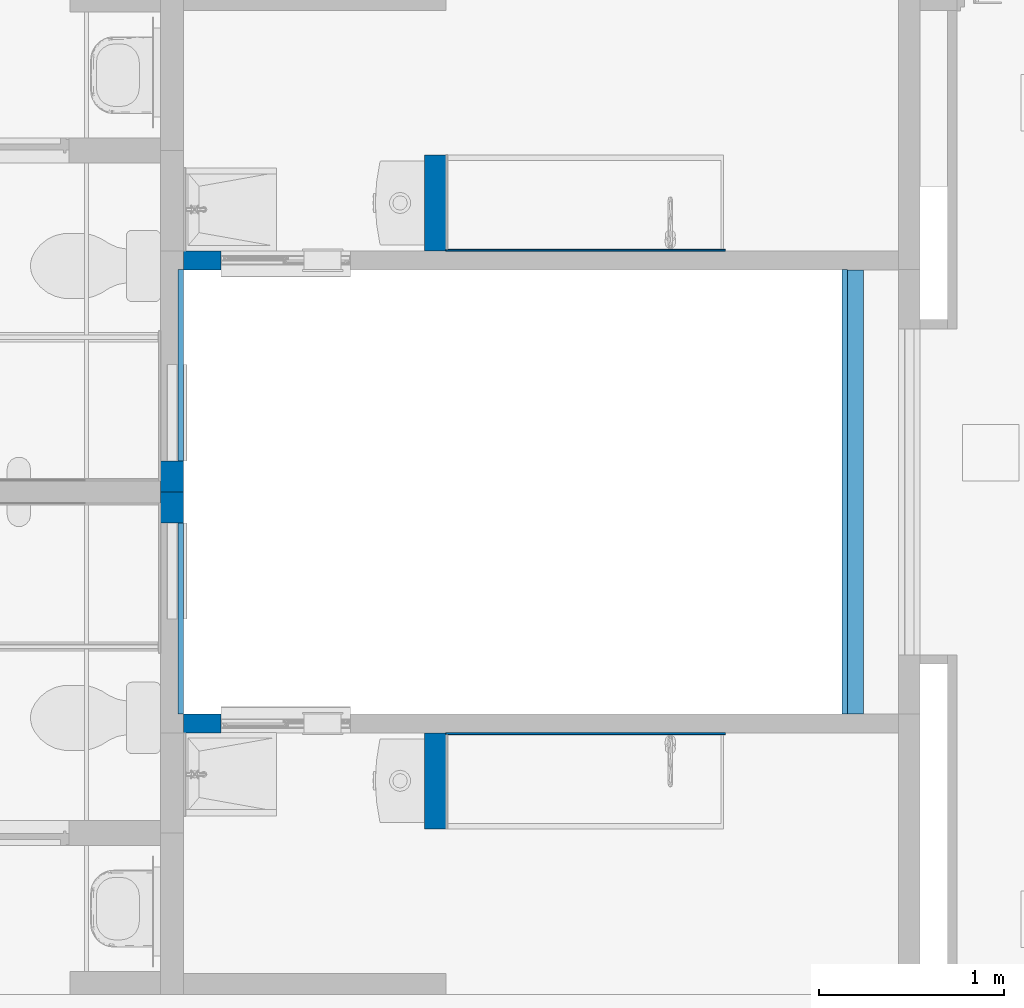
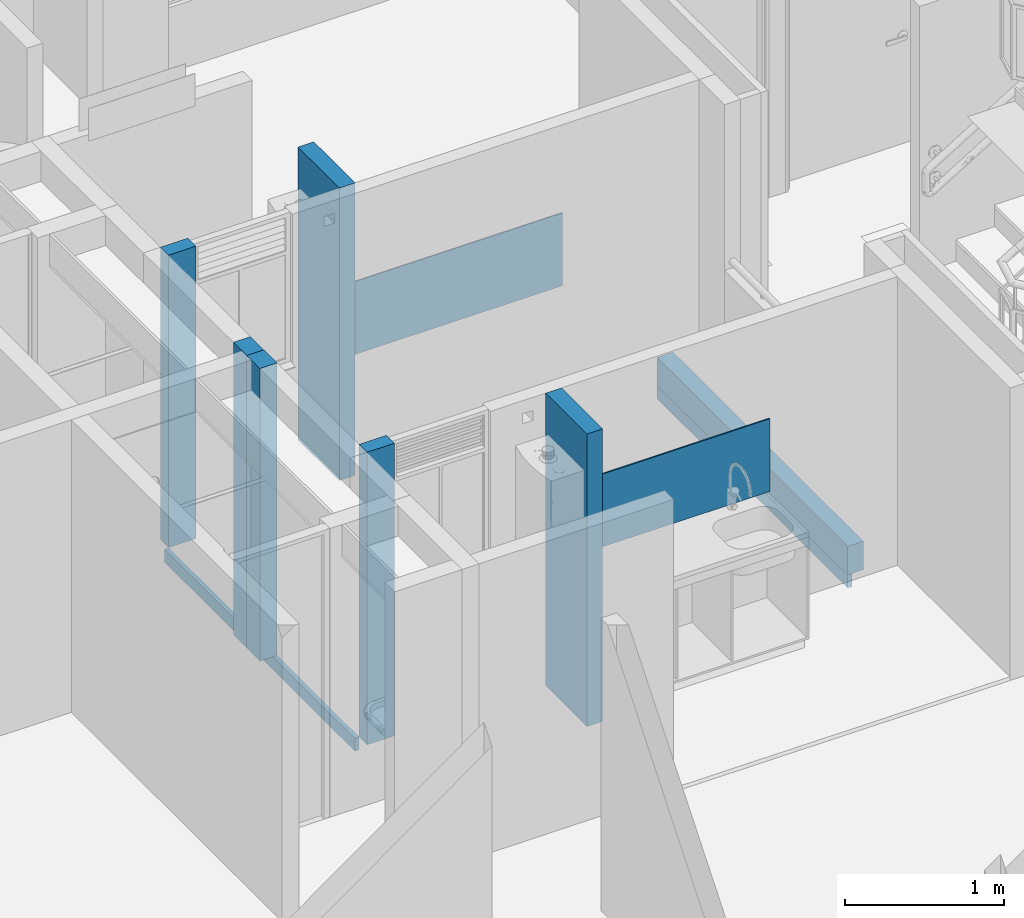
# One storey, part 8 of 51: 12 walls, 1 opening.
"""IFC4 building model written with IfcOpenShell, lengths in metres."""

from ifc_helpers import new_model, entity, si_unit, converted_unit, derived_unit, direction, frame, origin, place, context, subcontext, project, spatial, indexed_curve, outline, extrude, material, constituent, constituent_set, type_object, element, save


model = new_model("IFC4")

# Units and contexts
model_context = context("Model", 3, precision=1e-05, world=origin(), true_north=direction((6.123031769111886e-17, 1.0)))
body_context = subcontext(model_context, "Body", "Model", "MODEL_VIEW")
ifc_project = project(units=[si_unit("LENGTHUNIT", "METRE"), si_unit("AREAUNIT", "SQUARE_METRE"), si_unit("VOLUMEUNIT", "CUBIC_METRE"), converted_unit("PLANEANGLEUNIT", "DEGREE", entity("IfcRatioMeasure", 0.017453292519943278), si_unit("PLANEANGLEUNIT", "RADIAN"), dimensions=[0, 0, 0, 0, 0, 0, 0]), si_unit("MASSUNIT", "GRAM", prefix="KILO"), derived_unit("MASSDENSITYUNIT", [(si_unit("MASSUNIT", "GRAM", prefix="KILO"), 1), (si_unit("LENGTHUNIT", "METRE"), -3)]), derived_unit("IONCONCENTRATIONUNIT", [(si_unit("MASSUNIT", "GRAM", prefix="KILO"), 1), (si_unit("LENGTHUNIT", "METRE"), -3)]), derived_unit("MOMENTOFINERTIAUNIT", [(si_unit("LENGTHUNIT", "METRE"), 4)]), si_unit("TIMEUNIT", "SECOND"), si_unit("FREQUENCYUNIT", "HERTZ"), si_unit("THERMODYNAMICTEMPERATUREUNIT", "DEGREE_CELSIUS"), derived_unit("THERMALTRANSMITTANCEUNIT", [(si_unit("MASSUNIT", "GRAM", prefix="KILO"), 1), (si_unit("THERMODYNAMICTEMPERATUREUNIT", "KELVIN"), -1), (si_unit("TIMEUNIT", "SECOND"), -3)]), derived_unit("THERMALCONDUCTANCEUNIT", [(si_unit("MASSUNIT", "GRAM", prefix="KILO"), 1), (si_unit("THERMODYNAMICTEMPERATUREUNIT", "KELVIN"), -1), (si_unit("TIMEUNIT", "SECOND"), -3), (si_unit("LENGTHUNIT", "METRE"), 1)]), derived_unit("VOLUMETRICFLOWRATEUNIT", [(si_unit("LENGTHUNIT", "METRE"), 3), (si_unit("TIMEUNIT", "SECOND"), -1)]), derived_unit("MASSFLOWRATEUNIT", [(si_unit("MASSUNIT", "GRAM", prefix="KILO"), 1), (si_unit("TIMEUNIT", "SECOND"), -1)]), derived_unit("ROTATIONALFREQUENCYUNIT", [(si_unit("TIMEUNIT", "SECOND"), -1)]), si_unit("ELECTRICCURRENTUNIT", "AMPERE"), si_unit("ELECTRICVOLTAGEUNIT", "VOLT"), si_unit("POWERUNIT", "WATT"), si_unit("FORCEUNIT", "NEWTON", prefix="KILO"), si_unit("ILLUMINANCEUNIT", "LUX"), si_unit("LUMINOUSFLUXUNIT", "LUMEN"), si_unit("LUMINOUSINTENSITYUNIT", "CANDELA"), derived_unit("USERDEFINED", [(si_unit("MASSUNIT", "GRAM", prefix="KILO"), -1), (si_unit("LENGTHUNIT", "METRE"), -2), (si_unit("TIMEUNIT", "SECOND"), 3), (si_unit("LUMINOUSFLUXUNIT", "LUMEN"), 1)]), derived_unit("USERDEFINED", [(si_unit("MASSUNIT", "GRAM", prefix="KILO"), 1), (si_unit("TIMEUNIT", "SECOND"), -3), (si_unit("LENGTHUNIT", "METRE"), 3), (si_unit("ELECTRICCURRENTUNIT", "AMPERE"), -2)]), derived_unit("SOUNDPOWERUNIT", [(si_unit("MASSUNIT", "GRAM", prefix="KILO"), 1), (si_unit("TIMEUNIT", "SECOND"), -3), (si_unit("LENGTHUNIT", "METRE"), 2)]), derived_unit("SOUNDPRESSUREUNIT", [(si_unit("MASSUNIT", "GRAM", prefix="KILO"), 1), (si_unit("LENGTHUNIT", "METRE"), -1), (si_unit("TIMEUNIT", "SECOND"), -2)]), derived_unit("LINEARVELOCITYUNIT", [(si_unit("LENGTHUNIT", "METRE"), 1), (si_unit("TIMEUNIT", "SECOND"), -1)]), si_unit("PRESSUREUNIT", "PASCAL"), derived_unit("USERDEFINED", [(si_unit("MASSUNIT", "GRAM", prefix="KILO"), 1), (si_unit("LENGTHUNIT", "METRE"), -2), (si_unit("TIMEUNIT", "SECOND"), -2)]), derived_unit("LINEARFORCEUNIT", [(si_unit("MASSUNIT", "GRAM", prefix="KILO"), 1), (si_unit("TIMEUNIT", "SECOND"), -2)]), derived_unit("PLANARFORCEUNIT", [(si_unit("MASSUNIT", "GRAM", prefix="KILO"), 1), (si_unit("LENGTHUNIT", "METRE"), -1), (si_unit("TIMEUNIT", "SECOND"), -2)]), derived_unit("SPECIFICHEATCAPACITYUNIT", [(si_unit("THERMODYNAMICTEMPERATUREUNIT", "KELVIN"), -1), (si_unit("LENGTHUNIT", "METRE"), 2), (si_unit("TIMEUNIT", "SECOND"), -2)]), derived_unit("HEATINGVALUEUNIT", [(si_unit("LENGTHUNIT", "METRE"), 2), (si_unit("TIMEUNIT", "SECOND"), -2)]), derived_unit("VAPORPERMEABILITYUNIT", [(si_unit("LENGTHUNIT", "METRE"), -1), (si_unit("TIMEUNIT", "SECOND"), 1)]), derived_unit("DYNAMICVISCOSITYUNIT", [(si_unit("MASSUNIT", "GRAM", prefix="KILO"), 1), (si_unit("TIMEUNIT", "SECOND"), -1), (si_unit("LENGTHUNIT", "METRE"), -1)]), derived_unit("THERMALEXPANSIONCOEFFICIENTUNIT", [(si_unit("THERMODYNAMICTEMPERATUREUNIT", "KELVIN"), -1)]), derived_unit("MODULUSOFELASTICITYUNIT", [(si_unit("MASSUNIT", "GRAM", prefix="KILO"), 1), (si_unit("LENGTHUNIT", "METRE"), -1), (si_unit("TIMEUNIT", "SECOND"), -2)]), derived_unit("ISOTHERMALMOISTURECAPACITYUNIT", [(si_unit("LENGTHUNIT", "METRE"), 3), (si_unit("MASSUNIT", "GRAM", prefix="KILO"), -1)]), derived_unit("MOISTUREDIFFUSIVITYUNIT", [(si_unit("TIMEUNIT", "SECOND"), -1), (si_unit("LENGTHUNIT", "METRE"), 2)])], contexts=[model_context])

# Site, building, storey
site_placement = place(None, origin())
site = spatial("IfcSite", under=ifc_project, at=site_placement, Name="Default", CompositionType="ELEMENT")
building_placement = place(site_placement, origin())
building = spatial("IfcBuilding", under=site, at=building_placement, CompositionType="ELEMENT")
storey_placement = place(building_placement, frame((0.0, 0.0, 2.350000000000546)))
storey = spatial("IfcBuildingStorey", under=building, at=storey_placement, Name="Nivel 2", CompositionType="ELEMENT", Elevation=2.350000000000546)

# Wall, opening
ifc_material_1 = material(Name="PINTURA BLANCA PARA EXTERIORES", Category="Materials")
ifc_constituent_1 = constituent(ifc_material_1, Name="PINTURA BLANCA PARA EXTERIORES", Category="Materials")
ifc_material_2 = material(Name="Concreto - Fundido in situ", Category="Materials")
ifc_constituent_2 = constituent(ifc_material_2, Name="Concreto - Fundido in situ", Category="Materials")
ifc_constituent_set_1 = constituent_set(constituents=[ifc_constituent_1, ifc_constituent_2], Name="Basic Wall:B2010 - 0.10m - MI no estructural- Concreto + repello+ pintura blanca")
wall_type_1 = type_object("IfcWallType", Name="Basic Wall:B2010 - 0.10m - MI no estructural- Concreto + repello+ pintura blanca", PredefinedType="STANDARD", material=ifc_constituent_set_1)
wall_1_placement = place(storey_placement, frame((4.087499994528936, -5.175000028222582, 0.0)))
wall_1 = element("IfcWall", 1, at=wall_1_placement, inside=storey, type_object=wall_type_1, material=ifc_constituent_set_1, Name="Basic Wall:B2010 - 0.10m - MI no estructural- Concreto + repello+ pintura blanca", ObjectType="Basic Wall:B2010 - 0.10m - MI no estructural- Concreto + repello+ pintura blanca", PredefinedType="NOTDEFINED", context=body_context, shape_type="SweptSolid", body=[
    extrude(outline(indexed_curve([(-0.0004999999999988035, -0.10000000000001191), (0.0005000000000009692, -0.10000000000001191), (0.0004999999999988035, 0.10000000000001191), (-0.0005000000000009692, 0.10000000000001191), (-0.0004999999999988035, -0.10000000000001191)], self_intersect=False)), frame((0.10000000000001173, -0.04999999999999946, 0.0), z_axis=(0.0, 0.0, 1.0), x_axis=(0.0, 1.0, 0.0)), (0.0, 0.0, 1.0), 2.249999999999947),
    extrude(outline(indexed_curve([(-0.04999999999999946, -0.10000000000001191), (0.050000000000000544, -0.10000000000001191), (0.050000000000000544, 0.10000000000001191), (-0.04999999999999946, 0.10000000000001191), (-0.04999999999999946, -0.10000000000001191)], self_intersect=False)), frame((0.10000000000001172, 0.0005000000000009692, 0.0), z_axis=(0.0, 0.0, 1.0), x_axis=(0.0, -1.0, 0.0)), (0.0, 0.0, 1.0), 2.249999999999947),
])
opening_placement = place(wall_1_placement, origin())
element("IfcOpeningElement", 2, at=opening_placement, cuts=wall_1, Name="Basic Wall:B2010 - 0.10m - MI no estructural- Concreto + repello+ pintura blanca", PredefinedType="OPENING", context=body_context, shape_type="SweptSolid", body=[
    extrude(outline(indexed_curve([(-0.5749999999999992, -0.35000000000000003), (0.5749999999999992, -0.35000000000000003), (0.5749999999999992, 0.3499999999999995), (-0.5749999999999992, 0.3499999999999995), (-0.5749999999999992, -0.35000000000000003)], self_intersect=False)), frame((0.5500000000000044, -1.4734999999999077, 1.6749999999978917), z_axis=(0.0, 1.0, 0.0), x_axis=(0.0, 0.0, 1.0)), (0.0, 0.0, 1.0), 3.048),
])

# Walls
wall_2_placement = place(storey_placement, frame((4.08749999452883, -7.675000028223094, 0.0)))
element("IfcWall", 3, at=wall_2_placement, inside=storey, type_object=wall_type_1, material=ifc_constituent_set_1, Name="Basic Wall:B2010 - 0.10m - MI no estructural- Concreto + repello+ pintura blanca", ObjectType="Basic Wall:B2010 - 0.10m - MI no estructural- Concreto + repello+ pintura blanca", PredefinedType="NOTDEFINED", context=body_context, shape_type="SweptSolid", body=[
    extrude(outline(indexed_curve([(-0.0005000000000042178, -0.10000000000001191), (0.0004999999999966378, -0.10000000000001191), (0.000500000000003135, 0.10000000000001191), (-0.0004999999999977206, 0.10000000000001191), (-0.0005000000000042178, -0.10000000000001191)], self_intersect=False)), frame((0.10000000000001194, 0.04999999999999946, 0.0), z_axis=(0.0, 0.0, 1.0), x_axis=(0.0, -1.0, 0.0)), (0.0, 0.0, 1.0), 2.249999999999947),
    extrude(outline(indexed_curve([(-0.04999999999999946, -0.10000000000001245), (0.04999999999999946, -0.10000000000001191), (0.04999999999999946, 0.10000000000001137), (-0.04999999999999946, 0.10000000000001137), (-0.04999999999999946, -0.10000000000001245)], self_intersect=False)), frame((0.10000000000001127, -0.0004999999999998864, 0.0), z_axis=(0.0, 0.0, 1.0), x_axis=(0.0, 1.0, 0.0)), (0.0, 0.0, 1.0), 2.249999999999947),
])
ifc_material_3 = material(Name="LADRILLO CLARO", Category="Materials")
wall_type_2 = type_object("IfcWallType", Name="Basic Wall:B2010 - 0.115m - MI mampostería no estructural - Ladrillo", PredefinedType="STANDARD")
wall_3_placement = place(storey_placement, frame((5.44499999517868, -4.605000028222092, 0.0), z_axis=(0.0, 0.0, 1.0), x_axis=(0.0, -1.0, 0.0)))
element("IfcWall", 4, at=wall_3_placement, inside=storey, type_object=wall_type_2, material=ifc_material_3, Name="Basic Wall:B2010 - 0.115m - MI mampostería no estructural - Ladrillo", ObjectType="Basic Wall:B2010 - 0.115m - MI mampostería no estructural - Ladrillo", PredefinedType="NOTDEFINED", context=body_context, shape_type="SweptSolid", body=[
    extrude(outline(indexed_curve([(0.5195000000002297, 0.057500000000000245), (2.0425946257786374e-16, 0.057499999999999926), (-2.0425946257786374e-16, -0.057499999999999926), (0.5195000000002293, -0.0574999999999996), (0.5195000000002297, 0.057500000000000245)], self_intersect=False)), origin(), (0.0, 0.0, 1.0), 2.2500000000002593),
])
wall_4_placement = place(storey_placement, frame((5.4449999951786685, -8.245000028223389, 0.0), z_axis=(0.0, 0.0, 1.0), x_axis=(0.0, 1.0, 0.0)))
element("IfcWall", 5, at=wall_4_placement, inside=storey, type_object=wall_type_2, material=ifc_material_3, Name="Basic Wall:B2010 - 0.115m - MI mampostería no estructural - Ladrillo", ObjectType="Basic Wall:B2010 - 0.115m - MI mampostería no estructural - Ladrillo", PredefinedType="NOTDEFINED", context=body_context, shape_type="SweptSolid", body=[
    extrude(outline(indexed_curve([(0.51950000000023, 0.05749999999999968), (5.098138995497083e-16, 0.057499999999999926), (-5.098138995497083e-16, -0.057499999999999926), (0.519500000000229, -0.05750000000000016), (0.51950000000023, 0.05749999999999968)], self_intersect=False)), origin(), (0.0, 0.0, 1.0), 2.2500000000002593),
])
wall_5_placement = place(storey_placement, frame((7.7000000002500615, -5.225500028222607, 0.0), z_axis=(0.0, 0.0, 1.0), x_axis=(0.0, -1.0, 0.0)))
element("IfcWall", 6, at=wall_5_placement, inside=storey, type_object=wall_type_2, material=ifc_material_3, Name="Basic Wall:B2010 - 0.115m - MI mampostería no estructural - Ladrillo", ObjectType="Basic Wall:B2010 - 0.115m - MI mampostería no estructural - Ladrillo", PredefinedType="NOTDEFINED", context=body_context, shape_type="SweptSolid", body=[
    extrude(outline(indexed_curve([(2.3990000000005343, 0.057499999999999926), (-1.0377476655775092e-16, 0.057499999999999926), (1.0377476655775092e-16, -0.057499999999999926), (2.3990000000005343, -0.057499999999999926), (2.3990000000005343, 0.057499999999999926)], self_intersect=False)), origin(), (0.0, 0.0, 1.0), 0.2199999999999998),
])
ifc_material_4 = material(Name="Ceramica Salpicadero 0.28m x 0.45m", Category="Materials")
wall_type_3 = type_object("IfcWallType", Name="Basic Wall:C2010 - 0.28 x 0.45 - Salpicadero - Cerámica", PredefinedType="STANDARD")
wall_6_placement = place(storey_placement, frame((5.502499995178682, -5.120000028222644, 0.9300000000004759)))
element("IfcWall", 7, at=wall_6_placement, inside=storey, type_object=wall_type_3, material=ifc_material_4, Name="Basic Wall:C2010 - 0.28 x 0.45 - Salpicadero - Cerámica", ObjectType="Basic Wall:C2010 - 0.28 x 0.45 - Salpicadero - Cerámica", PredefinedType="NOTDEFINED", context=body_context, shape_type="SweptSolid", body=[
    extrude(outline(indexed_curve([(1.5100000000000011, 0.005000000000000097), (-1.8429308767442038e-17, 0.004999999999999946), (1.8429308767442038e-17, -0.004999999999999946), (1.5100000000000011, -0.004999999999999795), (1.5100000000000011, 0.005000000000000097)], self_intersect=False)), origin(), (0.0, 0.0, 1.0), 0.5599999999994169),
])
wall_7_placement = place(storey_placement, frame((5.502499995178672, -7.730000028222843, 0.9300000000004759)))
element("IfcWall", 8, at=wall_7_placement, inside=storey, type_object=wall_type_3, material=ifc_material_4, Name="Basic Wall:C2010 - 0.28 x 0.45 - Salpicadero - Cerámica", ObjectType="Basic Wall:C2010 - 0.28 x 0.45 - Salpicadero - Cerámica", PredefinedType="NOTDEFINED", context=body_context, shape_type="SweptSolid", body=[
    extrude(outline(indexed_curve([(1.5100000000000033, 0.004999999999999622), (-1.326925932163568e-17, 0.004999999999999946), (1.326925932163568e-17, -0.004999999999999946), (1.5100000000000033, -0.005000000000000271), (1.5100000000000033, 0.004999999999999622)], self_intersect=False)), origin(), (0.0, 0.0, 1.0), 0.5599999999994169),
])
ifc_material_5 = material(Name="Pañete", Category="Materials")
ifc_constituent_3 = constituent(ifc_material_5, Name="Pañete", Category="Materials")
ifc_constituent_4 = constituent(ifc_material_3, Name="LADRILLO CLARO", Category="Materials")
ifc_constituent_set_2 = constituent_set(constituents=[ifc_constituent_3, ifc_constituent_4], Name="Basic Wall:B2010 - 0.115m - MI  mampostería no estructural - Ladrillo + Pañete")
wall_type_4 = type_object("IfcWallType", Name="Basic Wall:B2010 - 0.115m - MI  mampostería no estructural - Ladrillo + Pañete", PredefinedType="STANDARD", material=ifc_constituent_set_2)
wall_8_placement = place(storey_placement, frame((4.0249999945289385, -6.257812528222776, 0.0), z_axis=(0.0, 0.0, 1.0), x_axis=(0.0, -1.0, 0.0)))
element("IfcWall", 9, at=wall_8_placement, inside=storey, type_object=wall_type_4, material=ifc_constituent_set_2, Name="Basic Wall:B2010 - 0.115m - MI  mampostería no estructural - Ladrillo + Pañete", ObjectType="Basic Wall:B2010 - 0.115m - MI  mampostería no estructural - Ladrillo + Pañete", PredefinedType="NOTDEFINED", context=body_context, shape_type="SweptSolid", body=[
    extrude(outline(indexed_curve([(-0.004999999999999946, -0.08359375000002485), (0.004999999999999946, -0.08359375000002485), (0.004999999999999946, 0.08359375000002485), (-0.004999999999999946, 0.08359375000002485), (-0.004999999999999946, -0.08359375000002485)], self_intersect=False)), frame((0.08359375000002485, -0.05750000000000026, 0.0), z_axis=(0.0, 0.0, 1.0), x_axis=(0.0, 1.0, 0.0)), (0.0, 0.0, 1.0), 2.2500000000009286),
    extrude(outline(indexed_curve([(-0.057499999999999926, -0.08359375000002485), (0.057499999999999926, -0.08359375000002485), (0.057499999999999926, 0.08359375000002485), (-0.057499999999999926, 0.08359375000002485), (-0.057499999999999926, -0.08359375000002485)], self_intersect=False)), frame((0.08359375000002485, 0.00499999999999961, 0.0), z_axis=(0.0, 0.0, 1.0), x_axis=(0.0, -1.0, 0.0)), (0.0, 0.0, 1.0), 2.2500000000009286),
])
wall_9_placement = place(storey_placement, frame((4.024999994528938, -6.592187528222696, 0.0), z_axis=(0.0, 0.0, 1.0), x_axis=(0.0, 1.0, 0.0)))
element("IfcWall", 10, at=wall_9_placement, inside=storey, type_object=wall_type_4, material=ifc_constituent_set_2, Name="Basic Wall:B2010 - 0.115m - MI  mampostería no estructural - Ladrillo + Pañete", ObjectType="Basic Wall:B2010 - 0.115m - MI  mampostería no estructural - Ladrillo + Pañete", PredefinedType="NOTDEFINED", context=body_context, shape_type="SweptSolid", body=[
    extrude(outline(indexed_curve([(-0.0050000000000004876, -0.08359375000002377), (0.004999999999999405, -0.08359375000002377), (0.005000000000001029, 0.08359375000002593), (-0.004999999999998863, 0.08359375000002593), (-0.0050000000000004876, -0.08359375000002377)], self_intersect=False)), frame((0.08359375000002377, 0.057500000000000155, 0.0), z_axis=(0.0, 0.0, 1.0), x_axis=(0.0, -1.0, 0.0)), (0.0, 0.0, 1.0), 2.2500000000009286),
    extrude(outline(indexed_curve([(-0.05750000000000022, -0.08359375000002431), (0.05749999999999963, -0.08359375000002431), (0.057499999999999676, 0.08359375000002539), (-0.05750000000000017, 0.08359375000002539), (-0.05750000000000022, -0.08359375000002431)], self_intersect=False)), frame((0.08359375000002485, -0.004999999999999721, 0.0), z_axis=(0.0, 0.0, 1.0), x_axis=(0.0, 1.0, 0.0)), (0.0, 0.0, 1.0), 2.2500000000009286),
])
wall_type_5 = type_object("IfcWallType", Name="Basic Wall:B2010 - 0.03m - ME enchape  no estructural - Ladrillo", PredefinedType="STANDARD")
wall_10_placement = place(storey_placement, frame((4.072499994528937, -5.225000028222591, -0.09999999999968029), z_axis=(0.0, 0.0, 1.0), x_axis=(0.0, -1.0, 0.0)))
element("IfcWall", 11, at=wall_10_placement, inside=storey, type_object=wall_type_5, material=ifc_material_3, Name="Basic Wall:B2010 - 0.03m - ME enchape  no estructural - Ladrillo", ObjectType="Basic Wall:B2010 - 0.03m - ME enchape  no estructural - Ladrillo", PredefinedType="NOTDEFINED", context=body_context, shape_type="SweptSolid", body=[
    extrude(outline(indexed_curve([(1.2000000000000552, 0.014999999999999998), (-6.966570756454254e-17, 0.014999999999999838), (6.966570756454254e-17, -0.014999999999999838), (1.2000000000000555, -0.01499999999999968), (1.2000000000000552, 0.014999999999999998)], self_intersect=False)), origin(), (0.0, 0.0, 1.0), 0.1),
])
wall_11_placement = place(storey_placement, frame((4.072499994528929, -7.625000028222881, -0.09999999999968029), z_axis=(0.0, 0.0, 1.0), x_axis=(0.0, 1.0, 0.0)))
element("IfcWall", 12, at=wall_11_placement, inside=storey, type_object=wall_type_5, material=ifc_material_3, Name="Basic Wall:B2010 - 0.03m - ME enchape  no estructural - Ladrillo", ObjectType="Basic Wall:B2010 - 0.03m - ME enchape  no estructural - Ladrillo", PredefinedType="NOTDEFINED", context=body_context, shape_type="SweptSolid", body=[
    extrude(outline(indexed_curve([(1.2000000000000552, 0.014999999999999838), (-2.707167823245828e-17, 0.014999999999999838), (2.707167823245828e-17, -0.014999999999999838), (1.2000000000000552, -0.014999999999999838), (1.2000000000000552, 0.014999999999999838)], self_intersect=False)), origin(), (0.0, 0.0, 1.0), 0.1),
])
wall_12_placement = place(storey_placement, frame((7.657500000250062, -5.225000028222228, -0.10000000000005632), z_axis=(0.0, 0.0, 1.0), x_axis=(0.0, -1.0, 0.0)))
element("IfcWall", 13, at=wall_12_placement, inside=storey, type_object=wall_type_5, material=ifc_material_3, Name="Basic Wall:B2010 - 0.03m - ME enchape  no estructural - Ladrillo", ObjectType="Basic Wall:B2010 - 0.03m - ME enchape  no estructural - Ladrillo", PredefinedType="NOTDEFINED", context=body_context, shape_type="SweptSolid", body=[
    extrude(outline(indexed_curve([(2.4000000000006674, 0.014999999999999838), (-2.7071678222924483e-17, 0.014999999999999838), (2.7071678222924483e-17, -0.014999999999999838), (2.4000000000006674, -0.014999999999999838), (2.4000000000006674, 0.014999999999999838)], self_intersect=False)), origin(), (0.0, 0.0, 1.0), 0.1),
])

save(model, "model.ifc")
